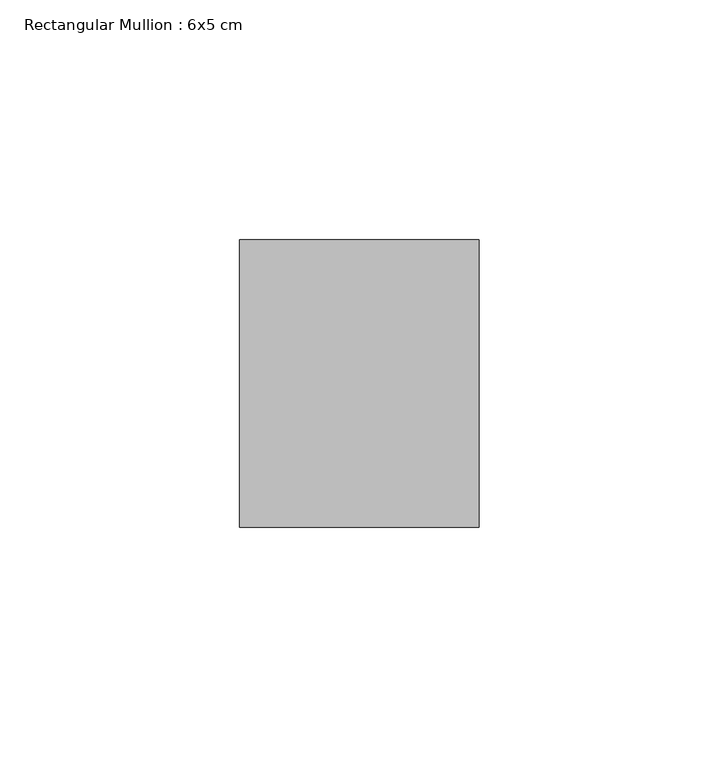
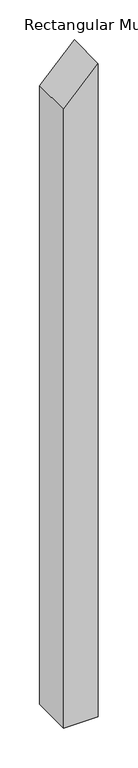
"""IFC4 building model written with IfcOpenShell, lengths in millimetres: member geometry, Rectangular Mullion : 6x5 cm."""

from ifc_helpers import new_model, si_unit, frame, origin, place, context, project, spatial, polyline, outline, extrude, source, transform, mapped, element, save


def rectangular_mullion_6x5_cm_35c0ddda(model_context):
    return source(origin(), model_context, "Body", "SweptSolid", [
        extrude(outline(polyline([(-46.1833952, 25.0), (-98.3849277, -25.0), (-1044.0306511, -25.0), (-1044.0306511, 25.0), (-46.1833952, 25.0)])), frame((0.0, 20.0, 0.0), z_axis=(0.0, 1.0, 0.0), x_axis=(0.0, 0.0, 1.0)), (0.0, 0.0, 1.0), 60.0),
    ])


if __name__ == "__main__":
    model = new_model("IFC4")
    model_context = context("Model", 3, world=origin())
    ifc_project = project(units=[si_unit("LENGTHUNIT", "METRE", prefix="MILLI")], contexts=[model_context])
    site = spatial("IfcSite", under=ifc_project)
    building = spatial("IfcBuilding", under=site)
    placement = place(None, origin())
    rectangular_mullion_6x5_cm_shape = rectangular_mullion_6x5_cm_35c0ddda(model_context)
    element("IfcMember", 1, ObjectType="Rectangular Mullion : 6x5 cm", at=placement, inside=building, context=model_context, shape_type="MappedRepresentation", body=[
        mapped(rectangular_mullion_6x5_cm_shape, transform((0.0, 0.0, 0.0), x_axis=(1.0, 0.0, 0.0), y_axis=(0.0, 1.0, 0.0), z_axis=(0.0, 0.0, 1.0))),
    ])
    save(model, "model.ifc")
